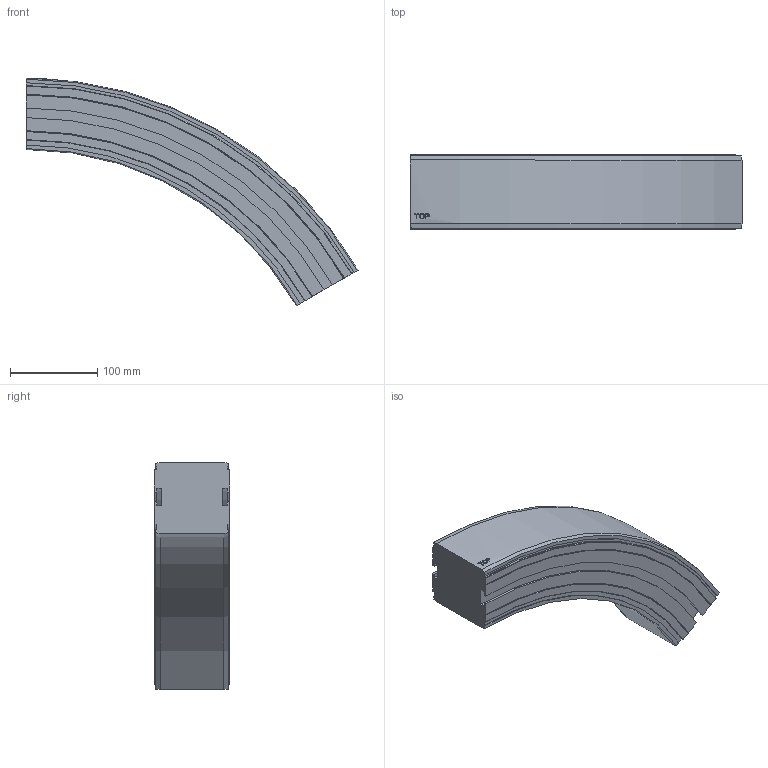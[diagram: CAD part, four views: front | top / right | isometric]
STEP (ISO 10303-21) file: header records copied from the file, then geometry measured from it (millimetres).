
FILE_DESCRIPTION((''),'2;1');
FILE_NAME('C:\Vault Klient\Projekt\Koncept konstruktion\Serie 830 Balk\830-5630_DOWN.stp','2009-11-27T10:52:13',('Mathias'),(''),'Autodesk Inventor 2010','Autodesk Inventor 2010','');
FILE_SCHEMA(('AUTOMOTIVE_DESIGN { 1 0 10303 214 1 1 1 1 }'));
Length unit declared in the file: millimetre
Products named in the file (1): 830-5630_DOWN
Bounding box: 380.62 x 86 x 260.5 mm (x, y, z)
Volume: 2775592.6 mm3; surface area: 184022.5 mm2
Topology: 1 solids, 1 shells, 93 faces, 258 edges, 172 vertices
Faces by surface type: plane 40, cylinder 23, bspline 14, cone 12, torus 4
Entity records: 3390 total; most frequent: CARTESIAN_POINT 955, ORIENTED_EDGE 516, DIRECTION 472, EDGE_CURVE 258, VERTEX_POINT 172, AXIS2_PLACEMENT_3D 162, VECTOR 148, LINE 148
